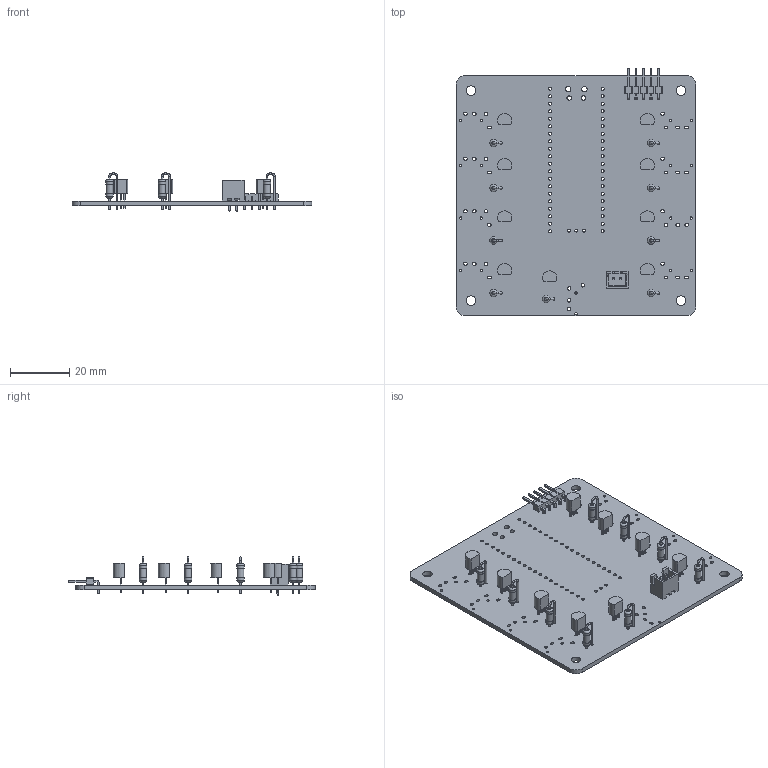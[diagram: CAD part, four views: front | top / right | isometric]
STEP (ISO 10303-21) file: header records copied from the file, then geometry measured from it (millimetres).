
FILE_DESCRIPTION(('KiCad electronic assembly'),'2;1');
FILE_NAME('Motherbuzz.step','2024-10-20T17:53:17',('Pcbnew'),('Kicad'), 'Open CASCADE STEP processor 7.8','KiCad to STEP converter','Unknown' );
FILE_SCHEMA(('AUTOMOTIVE_DESIGN { 1 0 10303 214 1 1 1 1 }'));
Length unit declared in the file: millimetre
Products named in the file (10): Motherbuzz 1; TO-92_Inline; TO-92_Inline_Narrow; PinHeader_1x05_P2.54mm_Horizontal; PinHeader_1x05_P254mm_Horizontal; JST_XH_B2B-XH-A_1x02_P2.50mm_Vertical; JST_B2B_XH_A; R_Axial_DIN0207_L6.3mm_D2.5mm_P2.54mm_Vertical; R_Axial_DIN0207_L63mm_D25mm_P254mm_Vertical; _autosave-Motherbuzz_PCB
Assembly tree (25 placements, depth 3):
  Motherbuzz 1
    TO-92_Inline  x9
      TO-92_Inline_Narrow
    PinHeader_1x05_P2.54mm_Horizontal
      PinHeader_1x05_P254mm_Horizontal
    JST_XH_B2B-XH-A_1x02_P2.50mm_Vertical
      JST_B2B_XH_A
    R_Axial_DIN0207_L6.3mm_D2.5mm_P2.54mm_Vertical  x9
      R_Axial_DIN0207_L63mm_D25mm_P254mm_Vertical
    _autosave-Motherbuzz_PCB
Bounding box: 81.28 x 83.7 x 12.9 mm (x, y, z)
Volume: 11556.6 mm3; surface area: 16863.9 mm2
Topology: 21 solids, 21 shells, 827 faces, 2020 edges, 1312 vertices
Faces by surface type: plane 513, cylinder 278, torus 36
Full cylindrical faces by diameter (mm): 0.6 x36, 0.75 x27, 0.8 x36, 1 x7, 1.02 x43, 1.5 x2, 1.8 x2, 2.25 x9, 2.5 x18, 3.2 x4
Entity records: 19795 total; most frequent: DIRECTION 3032, CARTESIAN_POINT 2993, ORIENTED_EDGE 2936, EDGE_CURVE 1468, LINE 1034, VECTOR 1034, AXIS2_PLACEMENT_3D 999, VERTEX_POINT 960
